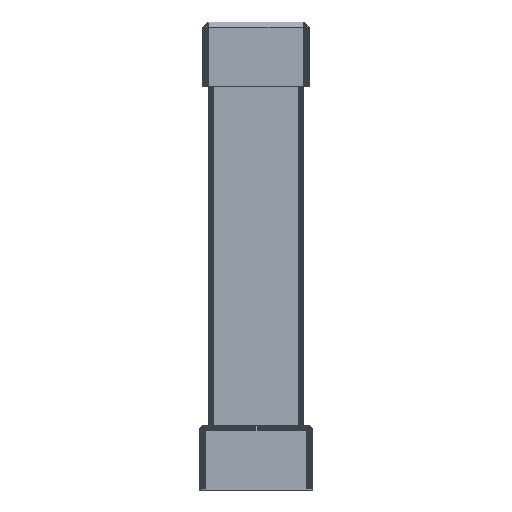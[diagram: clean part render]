
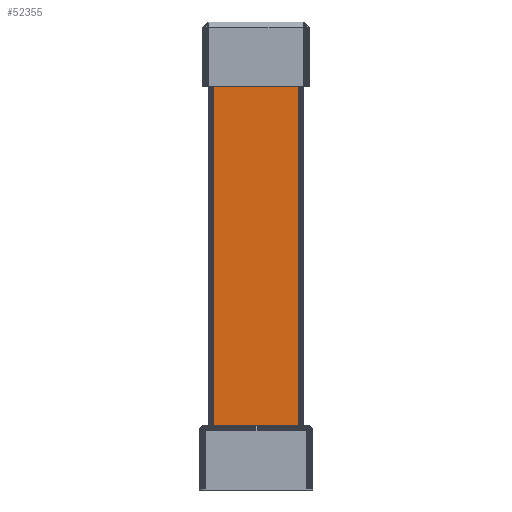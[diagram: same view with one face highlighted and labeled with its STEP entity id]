
A CAD part, front view. The second image highlights one B-rep face of the part: STEP entity #52355.
In plain terms, the highlighted planar face has unit normal (0, -1, 0).
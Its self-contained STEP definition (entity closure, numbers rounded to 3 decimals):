
#7513 = PLANE('',#7514);
#7514 = AXIS2_PLACEMENT_3D('',#7515,#7516,#7517);
#7515 = CARTESIAN_POINT('',(2.644,43.297,
    159.385));
#7516 = DIRECTION('',(0.,0.,-1.));
#7517 = DIRECTION('',(-1.,0.,-0.));
#13174 = VERTEX_POINT('',#13175);
#13175 = CARTESIAN_POINT('',(5.675,3.51,
    159.385));
#13189 = PLANE('',#13190);
#13190 = AXIS2_PLACEMENT_3D('',#13191,#13192,#13193);
#13191 = CARTESIAN_POINT('',(5.357,3.535,
    159.385));
#13192 = DIRECTION('',(-0.078,-0.997,-0.));
#13193 = DIRECTION('',(-0.997,0.078,0.));
#13201 = EDGE_CURVE('',#13174,#13202,#13204,.T.);
#13202 = VERTEX_POINT('',#13203);
#13203 = CARTESIAN_POINT('',(39.203,3.51,
    159.385));
#13204 = SURFACE_CURVE('',#13205,(#13209,#13216),.PCURVE_S1.);
#13205 = LINE('',#13206,#13207);
#13206 = CARTESIAN_POINT('',(5.675,3.51,
    159.385));
#13207 = VECTOR('',#13208,1.);
#13208 = DIRECTION('',(1.,0.,0.));
#13209 = PCURVE('',#7513,#13210);
#13210 = DEFINITIONAL_REPRESENTATION('',(#13211),#13215);
#13211 = LINE('',#13212,#13213);
#13212 = CARTESIAN_POINT('',(-3.031,-39.787));
#13213 = VECTOR('',#13214,1.);
#13214 = DIRECTION('',(-1.,0.));
#13215 = ( GEOMETRIC_REPRESENTATION_CONTEXT(2) 
PARAMETRIC_REPRESENTATION_CONTEXT() REPRESENTATION_CONTEXT('2D SPACE',''
  ) );
#13216 = PCURVE('',#13217,#13222);
#13217 = PLANE('',#13218);
#13218 = AXIS2_PLACEMENT_3D('',#13219,#13220,#13221);
#13219 = CARTESIAN_POINT('',(5.675,3.51,
    159.385));
#13220 = DIRECTION('',(0.,-1.,0.));
#13221 = DIRECTION('',(0.,-0.,-1.));
#13222 = DEFINITIONAL_REPRESENTATION('',(#13223),#13227);
#13223 = LINE('',#13224,#13225);
#13224 = CARTESIAN_POINT('',(0.,0.));
#13225 = VECTOR('',#13226,1.);
#13226 = DIRECTION('',(0.,1.));
#13227 = ( GEOMETRIC_REPRESENTATION_CONTEXT(2) 
PARAMETRIC_REPRESENTATION_CONTEXT() REPRESENTATION_CONTEXT('2D SPACE',''
  ) );
#13245 = PLANE('',#13246);
#13246 = AXIS2_PLACEMENT_3D('',#13247,#13248,#13249);
#13247 = CARTESIAN_POINT('',(39.203,3.51,
    159.385));
#13248 = DIRECTION('',(0.078,-0.997,0.));
#13249 = DIRECTION('',(-0.997,-0.078,0.));
#13969 = PLANE('',#13970);
#13970 = AXIS2_PLACEMENT_3D('',#13971,#13972,#13973);
#13971 = CARTESIAN_POINT('',(2.309,42.744,
    25.4));
#13972 = DIRECTION('',(-0.,0.,1.));
#13973 = DIRECTION('',(1.,0.,0.));
#15794 = VERTEX_POINT('',#15795);
#15795 = CARTESIAN_POINT('',(39.203,3.51,
    25.4));
#15816 = EDGE_CURVE('',#15817,#15794,#15819,.T.);
#15817 = VERTEX_POINT('',#15818);
#15818 = CARTESIAN_POINT('',(5.675,3.51,
    25.4));
#15819 = SURFACE_CURVE('',#15820,(#15824,#15831),.PCURVE_S1.);
#15820 = LINE('',#15821,#15822);
#15821 = CARTESIAN_POINT('',(5.675,3.51,
    25.4));
#15822 = VECTOR('',#15823,1.);
#15823 = DIRECTION('',(1.,0.,0.));
#15824 = PCURVE('',#13969,#15825);
#15825 = DEFINITIONAL_REPRESENTATION('',(#15826),#15830);
#15826 = LINE('',#15827,#15828);
#15827 = CARTESIAN_POINT('',(3.366,-39.234));
#15828 = VECTOR('',#15829,1.);
#15829 = DIRECTION('',(1.,0.));
#15830 = ( GEOMETRIC_REPRESENTATION_CONTEXT(2) 
PARAMETRIC_REPRESENTATION_CONTEXT() REPRESENTATION_CONTEXT('2D SPACE',''
  ) );
#15831 = PCURVE('',#13217,#15832);
#15832 = DEFINITIONAL_REPRESENTATION('',(#15833),#15837);
#15833 = LINE('',#15834,#15835);
#15834 = CARTESIAN_POINT('',(133.985,0.));
#15835 = VECTOR('',#15836,1.);
#15836 = DIRECTION('',(0.,1.));
#15837 = ( GEOMETRIC_REPRESENTATION_CONTEXT(2) 
PARAMETRIC_REPRESENTATION_CONTEXT() REPRESENTATION_CONTEXT('2D SPACE',''
  ) );
#52332 = EDGE_CURVE('',#15794,#13202,#52333,.T.);
#52333 = SURFACE_CURVE('',#52334,(#52338,#52345),.PCURVE_S1.);
#52334 = LINE('',#52335,#52336);
#52335 = CARTESIAN_POINT('',(39.203,3.51,
    25.4));
#52336 = VECTOR('',#52337,1.);
#52337 = DIRECTION('',(0.,0.,1.));
#52338 = PCURVE('',#13245,#52339);
#52339 = DEFINITIONAL_REPRESENTATION('',(#52340),#52344);
#52340 = LINE('',#52341,#52342);
#52341 = CARTESIAN_POINT('',(-0.,133.985));
#52342 = VECTOR('',#52343,1.);
#52343 = DIRECTION('',(0.,-1.));
#52344 = ( GEOMETRIC_REPRESENTATION_CONTEXT(2) 
PARAMETRIC_REPRESENTATION_CONTEXT() REPRESENTATION_CONTEXT('2D SPACE',''
  ) );
#52345 = PCURVE('',#13217,#52346);
#52346 = DEFINITIONAL_REPRESENTATION('',(#52347),#52351);
#52347 = LINE('',#52348,#52349);
#52348 = CARTESIAN_POINT('',(133.985,33.528));
#52349 = VECTOR('',#52350,1.);
#52350 = DIRECTION('',(-1.,0.));
#52351 = ( GEOMETRIC_REPRESENTATION_CONTEXT(2) 
PARAMETRIC_REPRESENTATION_CONTEXT() REPRESENTATION_CONTEXT('2D SPACE',''
  ) );
#52355 = ADVANCED_FACE('',(#52356),#13217,.T.);
#52356 = FACE_BOUND('',#52357,.T.);
#52357 = EDGE_LOOP('',(#52358,#52379,#52380,#52381));
#52358 = ORIENTED_EDGE('',*,*,#52359,.F.);
#52359 = EDGE_CURVE('',#15817,#13174,#52360,.T.);
#52360 = SURFACE_CURVE('',#52361,(#52365,#52372),.PCURVE_S1.);
#52361 = LINE('',#52362,#52363);
#52362 = CARTESIAN_POINT('',(5.675,3.51,
    25.4));
#52363 = VECTOR('',#52364,1.);
#52364 = DIRECTION('',(0.,0.,1.));
#52365 = PCURVE('',#13217,#52366);
#52366 = DEFINITIONAL_REPRESENTATION('',(#52367),#52371);
#52367 = LINE('',#52368,#52369);
#52368 = CARTESIAN_POINT('',(133.985,0.));
#52369 = VECTOR('',#52370,1.);
#52370 = DIRECTION('',(-1.,0.));
#52371 = ( GEOMETRIC_REPRESENTATION_CONTEXT(2) 
PARAMETRIC_REPRESENTATION_CONTEXT() REPRESENTATION_CONTEXT('2D SPACE',''
  ) );
#52372 = PCURVE('',#13189,#52373);
#52373 = DEFINITIONAL_REPRESENTATION('',(#52374),#52378);
#52374 = LINE('',#52375,#52376);
#52375 = CARTESIAN_POINT('',(-0.319,133.985));
#52376 = VECTOR('',#52377,1.);
#52377 = DIRECTION('',(0.,-1.));
#52378 = ( GEOMETRIC_REPRESENTATION_CONTEXT(2) 
PARAMETRIC_REPRESENTATION_CONTEXT() REPRESENTATION_CONTEXT('2D SPACE',''
  ) );
#52379 = ORIENTED_EDGE('',*,*,#15816,.T.);
#52380 = ORIENTED_EDGE('',*,*,#52332,.T.);
#52381 = ORIENTED_EDGE('',*,*,#13201,.F.);
